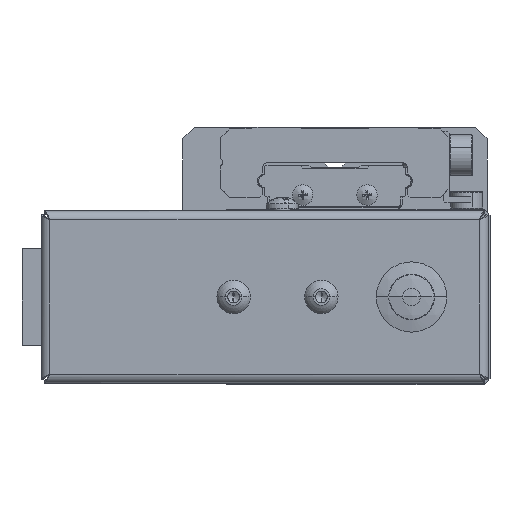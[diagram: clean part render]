
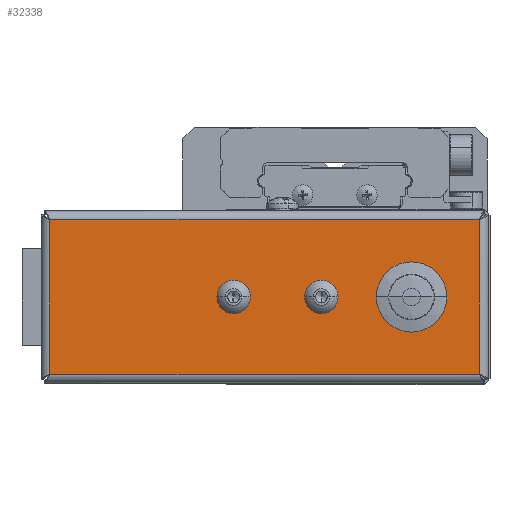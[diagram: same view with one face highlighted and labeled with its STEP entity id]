
A CAD part, left-side view. The second image highlights one B-rep face of the part: STEP entity #32338.
In plain terms, the highlighted planar face has unit normal (-1, 0, 0) as drawn and (0, 0, -1) by its records, which use the part's own axes.
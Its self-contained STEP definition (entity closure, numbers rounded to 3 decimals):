
#466 = CARTESIAN_POINT ( 'NONE',  ( 1.5, 27.9, -0.5 ) ) ;
#673 = DIRECTION ( 'NONE',  ( 0., 0., -1. ) ) ;
#801 = EDGE_CURVE ( 'NONE', #841, #32514, #13519, .T. ) ;
#841 = VERTEX_POINT ( 'NONE', #466 ) ;
#1256 = VERTEX_POINT ( 'NONE', #35698 ) ;
#1543 = DIRECTION ( 'NONE',  ( 0., 1., 0. ) ) ;
#2271 = ORIENTED_EDGE ( 'NONE', *, *, #35624, .T. ) ;
#2587 = EDGE_LOOP ( 'NONE', ( #37546, #35731 ) ) ;
#3289 = EDGE_CURVE ( 'NONE', #3530, #841, #26796, .T. ) ;
#3530 = VERTEX_POINT ( 'NONE', #29527 ) ;
#3562 = DIRECTION ( 'NONE',  ( 0., 0., -1. ) ) ;
#4309 = EDGE_CURVE ( 'NONE', #32514, #10660, #5261, .T. ) ;
#4393 = VECTOR ( 'NONE', #1543, 1000. ) ;
#5261 = LINE ( 'NONE', #27801, #30454 ) ;
#6683 = DIRECTION ( 'NONE',  ( 0., -1., 0. ) ) ;
#6684 = DIRECTION ( 'NONE',  ( 1., 0., 0. ) ) ;
#6791 = LINE ( 'NONE', #22466, #15248 ) ;
#7401 = VERTEX_POINT ( 'NONE', #22924 ) ;
#9718 = CARTESIAN_POINT ( 'NONE',  ( 63.3, 14.7, -0.5 ) ) ;
#10398 = AXIS2_PLACEMENT_3D ( 'NONE', #9718, #3562, #18459 ) ;
#10660 = VERTEX_POINT ( 'NONE', #26696 ) ;
#11965 = ORIENTED_EDGE ( 'NONE', *, *, #3289, .T. ) ;
#13116 = CIRCLE ( 'NONE', #24340, 3.8 ) ;
#13186 = DIRECTION ( 'NONE',  ( -1., 0., 0. ) ) ;
#13519 = LINE ( 'NONE', #33013, #30721 ) ;
#13567 = CARTESIAN_POINT ( 'NONE',  ( 63.3, 14.7, -0.5 ) ) ;
#13667 = CARTESIAN_POINT ( 'NONE',  ( 1.5, 0.571, -0.5 ) ) ;
#15248 = VECTOR ( 'NONE', #29369, 1000. ) ;
#15535 = CARTESIAN_POINT ( 'NONE',  ( 0., 0., -0.5 ) ) ;
#15666 = PLANE ( 'NONE',  #29908 ) ;
#18459 = DIRECTION ( 'NONE',  ( -1., 0., 0. ) ) ;
#20119 = FACE_BOUND ( 'NONE', #2587, .T. ) ;
#20801 = EDGE_CURVE ( 'NONE', #7401, #1256, #13116, .T. ) ;
#21516 = DIRECTION ( 'NONE',  ( -1., 0., 0. ) ) ;
#22466 = CARTESIAN_POINT ( 'NONE',  ( 75.829, 1.5, -0.5 ) ) ;
#22924 = CARTESIAN_POINT ( 'NONE',  ( 59.5, 14.7, -0.5 ) ) ;
#23429 = ORIENTED_EDGE ( 'NONE', *, *, #4309, .T. ) ;
#23689 = EDGE_LOOP ( 'NONE', ( #23429, #2271, #11965, #25422 ) ) ;
#24340 = AXIS2_PLACEMENT_3D ( 'NONE', #13567, #30981, #13186 ) ;
#25422 = ORIENTED_EDGE ( 'NONE', *, *, #801, .T. ) ;
#26696 = CARTESIAN_POINT ( 'NONE',  ( 74.9, 1.5, -0.5 ) ) ;
#26796 = LINE ( 'NONE', #13667, #4393 ) ;
#27801 = CARTESIAN_POINT ( 'NONE',  ( 74.9, 28.829, -0.5 ) ) ;
#28577 = EDGE_CURVE ( 'NONE', #1256, #7401, #34146, .T. ) ;
#29369 = DIRECTION ( 'NONE',  ( -1., 0., 0. ) ) ;
#29448 = CARTESIAN_POINT ( 'NONE',  ( 74.9, 27.9, -0.5 ) ) ;
#29527 = CARTESIAN_POINT ( 'NONE',  ( 1.5, 1.5, -0.5 ) ) ;
#29908 = AXIS2_PLACEMENT_3D ( 'NONE', #15535, #673, #21516 ) ;
#30454 = VECTOR ( 'NONE', #6683, 1000. ) ;
#30721 = VECTOR ( 'NONE', #6684, 1000. ) ;
#30981 = DIRECTION ( 'NONE',  ( 0., 0., -1. ) ) ;
#32338 = ADVANCED_FACE ( 'NONE', ( #20119, #34545 ), #15666, .T. ) ;
#32514 = VERTEX_POINT ( 'NONE', #29448 ) ;
#33013 = CARTESIAN_POINT ( 'NONE',  ( 0.571, 27.9, -0.5 ) ) ;
#34146 = CIRCLE ( 'NONE', #10398, 3.8 ) ;
#34545 = FACE_OUTER_BOUND ( 'NONE', #23689, .T. ) ;
#35624 = EDGE_CURVE ( 'NONE', #10660, #3530, #6791, .T. ) ;
#35698 = CARTESIAN_POINT ( 'NONE',  ( 67.1, 14.7, -0.5 ) ) ;
#35731 = ORIENTED_EDGE ( 'NONE', *, *, #28577, .F. ) ;
#37546 = ORIENTED_EDGE ( 'NONE', *, *, #20801, .F. ) ;
